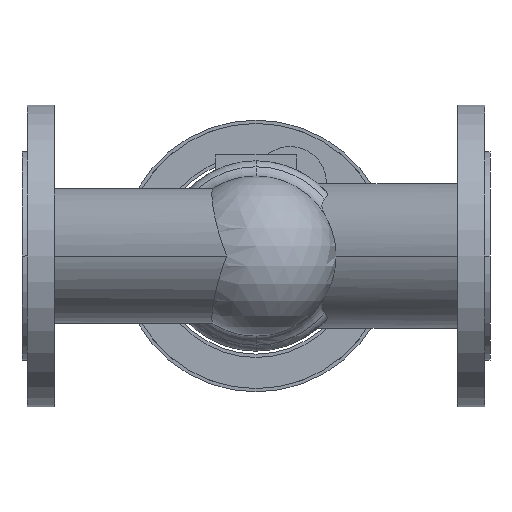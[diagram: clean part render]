
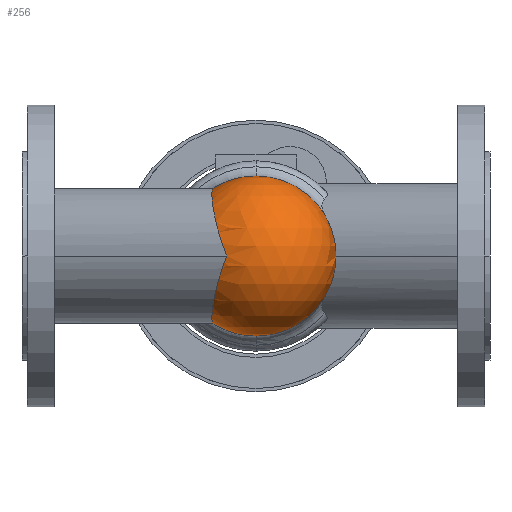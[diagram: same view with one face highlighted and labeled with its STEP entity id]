
A CAD part, front view. The second image highlights one B-rep face of the part: STEP entity #256.
In plain terms, the highlighted spherical face has radius 53 mm.
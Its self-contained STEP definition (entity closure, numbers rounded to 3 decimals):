
#256 = ADVANCED_FACE( '', ( #677 ), #678, .T. );
#677 = FACE_OUTER_BOUND( '', #1140, .T. );
#678 = SPHERICAL_SURFACE( '', #1141, 53. );
#1140 = EDGE_LOOP( '', ( #2683, #2684, #2685, #2686, #2687, #2688 ) );
#1141 = AXIS2_PLACEMENT_3D( '', #2689, #2690, #2691 );
#2683 = ORIENTED_EDGE( '', *, *, #2948, .F. );
#2684 = ORIENTED_EDGE( '', *, *, #2966, .F. );
#2685 = ORIENTED_EDGE( '', *, *, #2965, .F. );
#2686 = ORIENTED_EDGE( '', *, *, #3401, .F. );
#2687 = ORIENTED_EDGE( '', *, *, #3402, .F. );
#2688 = ORIENTED_EDGE( '', *, *, #3403, .F. );
#2689 = CARTESIAN_POINT( '', ( 155., -43.5, 0. ) );
#2690 = DIRECTION( '', ( 0., 0., 1. ) );
#2691 = DIRECTION( '', ( 1., 0., 0. ) );
#2948 = EDGE_CURVE( '', #3537, #3523, #3539, .T. );
#2965 = EDGE_CURVE( '', #3568, #3571, #3572, .T. );
#2966 = EDGE_CURVE( '', #3571, #3537, #3573, .T. );
#3401 = EDGE_CURVE( '', #4291, #3568, #4292, .T. );
#3402 = EDGE_CURVE( '', #4293, #4291, #4294, .T. );
#3403 = EDGE_CURVE( '', #3523, #4293, #4295, .T. );
#3523 = VERTEX_POINT( '', #4440 );
#3537 = VERTEX_POINT( '', #4532 );
#3539 = B_SPLINE_CURVE_WITH_KNOTS( '', 3, ( #4551, #4552, #4553, #4554, #4555, #4556, #4557, #4558, #4559, #4560, #4561, #4562, #4563, #4564, #4565, #4566, #4567, #4568, #4569, #4570, #4571, #4572, #4573, #4574, #4575, #4576, #4577, #4578, #4579, #4580, #4581, #4582, #4583, #4584, #4585, #4586 ), .UNSPECIFIED., .F., .F., ( 4, 2, 2, 2, 2, 2, 2, 2, 2, 2, 2, 2, 2, 2, 2, 2, 2, 4 ), ( 211.153, 213.366, 217.791, 222.216, 226.641, 231.066, 235.491, 239.916, 244.341, 248.921, 253.501, 258.081, 262.661, 267.241, 271.821, 276.401, 280.981, 280.993 ), .UNSPECIFIED. );
#3568 = VERTEX_POINT( '', #4630 );
#3571 = VERTEX_POINT( '', #4634 );
#3572 = CIRCLE( '', #4635, 53. );
#3573 = CIRCLE( '', #4636, 53. );
#4291 = VERTEX_POINT( '', #5863 );
#4292 = CIRCLE( '', #5864, 53. );
#4293 = VERTEX_POINT( '', #5865 );
#4294 = CIRCLE( '', #5866, 53. );
#4295 = B_SPLINE_CURVE_WITH_KNOTS( '', 3, ( #5867, #5868, #5869, #5870, #5871, #5872, #5873, #5874, #5875, #5876, #5877, #5878, #5879, #5880, #5881, #5882, #5883, #5884, #5885, #5886, #5887, #5888, #5889, #5890, #5891, #5892, #5893, #5894, #5895, #5896, #5897, #5898, #5899, #5900, #5901, #5902 ), .UNSPECIFIED., .F., .F., ( 4, 2, 2, 2, 2, 2, 2, 2, 2, 2, 2, 2, 2, 2, 2, 2, 2, 4 ), ( 0., 0.012, 4.592, 9.172, 13.752, 18.332, 22.912, 27.492, 32.073, 36.653, 41.078, 45.503, 49.928, 54.353, 58.778, 63.203, 67.628, 69.84 ), .UNSPECIFIED. );
#4440 = CARTESIAN_POINT( '', ( 135.622, -92.83, 0. ) );
#4532 = CARTESIAN_POINT( '', ( 126.407, -43.5, -44.626 ) );
#4551 = CARTESIAN_POINT( '', ( 126.407, -43.5, -44.626 ) );
#4552 = CARTESIAN_POINT( '', ( 126.354, -44.247, -44.592 ) );
#4553 = CARTESIAN_POINT( '', ( 126.303, -44.998, -44.54 ) );
#4554 = CARTESIAN_POINT( '', ( 126.159, -47.263, -44.332 ) );
#4555 = CARTESIAN_POINT( '', ( 126.073, -48.785, -44.121 ) );
#4556 = CARTESIAN_POINT( '', ( 125.931, -51.828, -43.555 ) );
#4557 = CARTESIAN_POINT( '', ( 125.873, -53.349, -43.198 ) );
#4558 = CARTESIAN_POINT( '', ( 125.792, -56.363, -42.342 ) );
#4559 = CARTESIAN_POINT( '', ( 125.768, -57.856, -41.843 ) );
#4560 = CARTESIAN_POINT( '', ( 125.757, -60.79, -40.71 ) );
#4561 = CARTESIAN_POINT( '', ( 125.77, -62.232, -40.077 ) );
#4562 = CARTESIAN_POINT( '', ( 125.835, -65.044, -38.687 ) );
#4563 = CARTESIAN_POINT( '', ( 125.888, -66.414, -37.932 ) );
#4564 = CARTESIAN_POINT( '', ( 126.035, -69.061, -36.319 ) );
#4565 = CARTESIAN_POINT( '', ( 126.129, -70.338, -35.461 ) );
#4566 = CARTESIAN_POINT( '', ( 126.356, -72.784, -33.665 ) );
#4567 = CARTESIAN_POINT( '', ( 126.49, -73.951, -32.727 ) );
#4568 = CARTESIAN_POINT( '', ( 126.799, -76.203, -30.766 ) );
#4569 = CARTESIAN_POINT( '', ( 126.981, -77.325, -29.704 ) );
#4570 = CARTESIAN_POINT( '', ( 127.401, -79.494, -27.463 ) );
#4571 = CARTESIAN_POINT( '', ( 127.638, -80.541, -26.284 ) );
#4572 = CARTESIAN_POINT( '', ( 128.169, -82.538, -23.826 ) );
#4573 = CARTESIAN_POINT( '', ( 128.463, -83.488, -22.548 ) );
#4574 = CARTESIAN_POINT( '', ( 129.11, -85.271, -19.912 ) );
#4575 = CARTESIAN_POINT( '', ( 129.462, -86.105, -18.555 ) );
#4576 = CARTESIAN_POINT( '', ( 130.222, -87.642, -15.785 ) );
#4577 = CARTESIAN_POINT( '', ( 130.631, -88.347, -14.371 ) );
#4578 = CARTESIAN_POINT( '', ( 131.502, -89.619, -11.512 ) );
#4579 = CARTESIAN_POINT( '', ( 131.964, -90.186, -10.066 ) );
#4580 = CARTESIAN_POINT( '', ( 132.936, -91.18, -7.17 ) );
#4581 = CARTESIAN_POINT( '', ( 133.446, -91.606, -5.719 ) );
#4582 = CARTESIAN_POINT( '', ( 134.505, -92.32, -2.841 ) );
#4583 = CARTESIAN_POINT( '', ( 135.054, -92.607, -1.414 ) );
#4584 = CARTESIAN_POINT( '', ( 135.618, -92.829, -0.008 ) );
#4585 = CARTESIAN_POINT( '', ( 135.62, -92.83, -0.004 ) );
#4586 = CARTESIAN_POINT( '', ( 135.622, -92.83, 0. ) );
#4630 = CARTESIAN_POINT( '', ( 208., -43.5, 0. ) );
#4634 = CARTESIAN_POINT( '', ( 155., -43.5, -53. ) );
#4635 = AXIS2_PLACEMENT_3D( '', #6130, #6131, #6132 );
#4636 = AXIS2_PLACEMENT_3D( '', #6133, #6134, #6135 );
#5863 = CARTESIAN_POINT( '', ( 155., -43.5, 53. ) );
#5864 = AXIS2_PLACEMENT_3D( '', #6964, #6965, #6966 );
#5865 = CARTESIAN_POINT( '', ( 126.407, -43.5, 44.626 ) );
#5866 = AXIS2_PLACEMENT_3D( '', #6967, #6968, #6969 );
#5867 = CARTESIAN_POINT( '', ( 135.622, -92.83, 0. ) );
#5868 = CARTESIAN_POINT( '', ( 135.62, -92.83, 0.004 ) );
#5869 = CARTESIAN_POINT( '', ( 135.618, -92.829, 0.008 ) );
#5870 = CARTESIAN_POINT( '', ( 135.054, -92.607, 1.414 ) );
#5871 = CARTESIAN_POINT( '', ( 134.505, -92.32, 2.841 ) );
#5872 = CARTESIAN_POINT( '', ( 133.446, -91.606, 5.719 ) );
#5873 = CARTESIAN_POINT( '', ( 132.936, -91.18, 7.17 ) );
#5874 = CARTESIAN_POINT( '', ( 131.964, -90.186, 10.066 ) );
#5875 = CARTESIAN_POINT( '', ( 131.502, -89.619, 11.512 ) );
#5876 = CARTESIAN_POINT( '', ( 130.631, -88.347, 14.371 ) );
#5877 = CARTESIAN_POINT( '', ( 130.222, -87.642, 15.785 ) );
#5878 = CARTESIAN_POINT( '', ( 129.462, -86.105, 18.555 ) );
#5879 = CARTESIAN_POINT( '', ( 129.11, -85.271, 19.912 ) );
#5880 = CARTESIAN_POINT( '', ( 128.463, -83.488, 22.548 ) );
#5881 = CARTESIAN_POINT( '', ( 128.169, -82.538, 23.826 ) );
#5882 = CARTESIAN_POINT( '', ( 127.638, -80.541, 26.284 ) );
#5883 = CARTESIAN_POINT( '', ( 127.401, -79.494, 27.463 ) );
#5884 = CARTESIAN_POINT( '', ( 126.981, -77.325, 29.704 ) );
#5885 = CARTESIAN_POINT( '', ( 126.799, -76.203, 30.766 ) );
#5886 = CARTESIAN_POINT( '', ( 126.49, -73.951, 32.727 ) );
#5887 = CARTESIAN_POINT( '', ( 126.356, -72.784, 33.665 ) );
#5888 = CARTESIAN_POINT( '', ( 126.129, -70.338, 35.461 ) );
#5889 = CARTESIAN_POINT( '', ( 126.035, -69.061, 36.319 ) );
#5890 = CARTESIAN_POINT( '', ( 125.888, -66.414, 37.932 ) );
#5891 = CARTESIAN_POINT( '', ( 125.835, -65.044, 38.687 ) );
#5892 = CARTESIAN_POINT( '', ( 125.77, -62.232, 40.077 ) );
#5893 = CARTESIAN_POINT( '', ( 125.757, -60.79, 40.71 ) );
#5894 = CARTESIAN_POINT( '', ( 125.768, -57.856, 41.843 ) );
#5895 = CARTESIAN_POINT( '', ( 125.792, -56.363, 42.342 ) );
#5896 = CARTESIAN_POINT( '', ( 125.873, -53.349, 43.198 ) );
#5897 = CARTESIAN_POINT( '', ( 125.931, -51.828, 43.555 ) );
#5898 = CARTESIAN_POINT( '', ( 126.073, -48.785, 44.121 ) );
#5899 = CARTESIAN_POINT( '', ( 126.159, -47.263, 44.332 ) );
#5900 = CARTESIAN_POINT( '', ( 126.303, -44.998, 44.54 ) );
#5901 = CARTESIAN_POINT( '', ( 126.354, -44.247, 44.592 ) );
#5902 = CARTESIAN_POINT( '', ( 126.407, -43.5, 44.626 ) );
#6130 = CARTESIAN_POINT( '', ( 155., -43.5, 0. ) );
#6131 = DIRECTION( '', ( 0., 1., 0. ) );
#6132 = DIRECTION( '', ( 1., 0., 0. ) );
#6133 = CARTESIAN_POINT( '', ( 155., -43.5, 0. ) );
#6134 = DIRECTION( '', ( 0., 1., 0. ) );
#6135 = DIRECTION( '', ( 1., 0., 0. ) );
#6964 = CARTESIAN_POINT( '', ( 155., -43.5, 0. ) );
#6965 = DIRECTION( '', ( 0., 1., 0. ) );
#6966 = DIRECTION( '', ( 1., 0., 0. ) );
#6967 = CARTESIAN_POINT( '', ( 155., -43.5, 0. ) );
#6968 = DIRECTION( '', ( 0., 1., 0. ) );
#6969 = DIRECTION( '', ( 1., 0., 0. ) );
